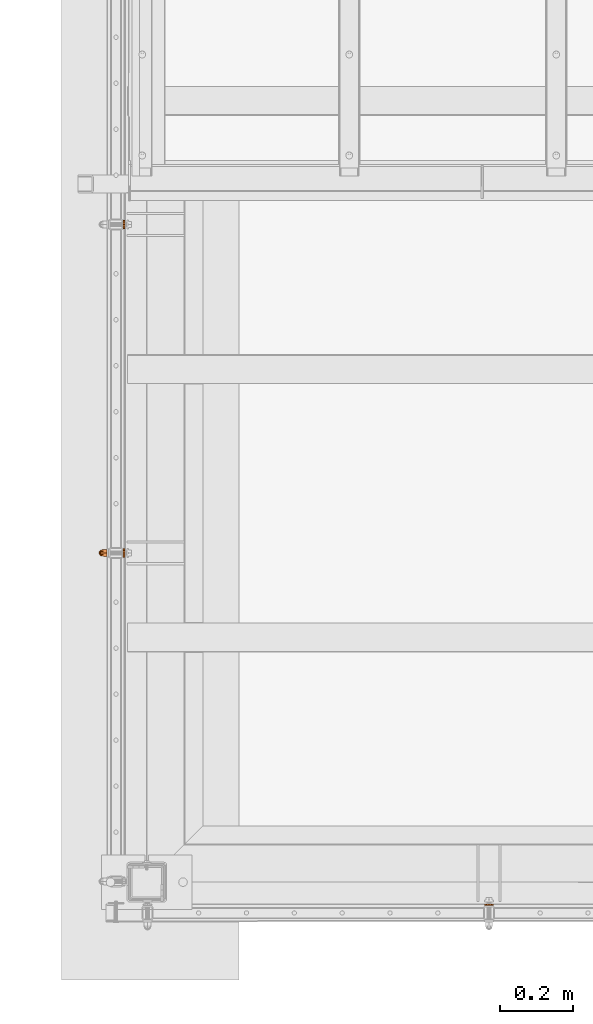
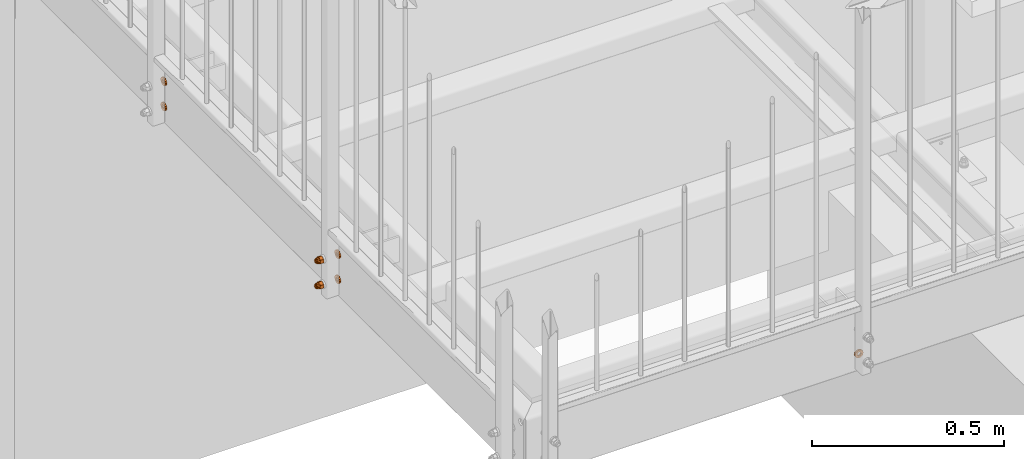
# One storey, part 100 of 116: 7 proxies.
"""IFC2X3 building model written with IfcOpenShell, lengths in millimetres."""

import ifcopenshell
import ifcopenshell.guid

model = None  # the IFC model being written
_history = None  # IfcOwnerHistory: only IFC2X3 demands one
_inside = {}  # id of a spatial element -> (the spatial element, [elements in it])
_under = {}  # id of a project, library or spatial element -> (it, [spatial elements below it])
_declared = {}  # id of a project -> (the project, [libraries it declares])
_typed = {}  # id of a type object -> (the type object, [elements of that type])
_made_of = {}  # id of a material, layer set ... -> (it, [elements and type objects made of it])


def new_model(schema):
    """Start an empty IFC model of exactly this schema.

    Asked for "IFC4X3", IfcOpenShell would pick the latest addendum, in which some entities
    have other attributes; the version numbers below select the first issue.
    IFC2X3 requires an IfcOwnerHistory on every rooted entity: one is made here for all.
    """
    global model, _history
    if schema == "IFC4X3":
        model = ifcopenshell.file(schema_version=(4, 3, 0, 0))
    else:
        model = ifcopenshell.file(schema=schema)
    _inside.clear()
    _under.clear()
    _declared.clear()
    _typed.clear()
    _made_of.clear()
    _history = None
    if model.schema == "IFC2X3":
        org = make("IfcOrganization", Name="unknown")
        user = make(
            "IfcPersonAndOrganization",
            ThePerson=make("IfcPerson", FamilyName="unknown"),
            TheOrganization=org,
        )
        app = make(
            "IfcApplication",
            ApplicationDeveloper=org,
            Version="unknown",
            ApplicationFullName="unknown",
            ApplicationIdentifier="unknown",
        )
        _history = make(
            "IfcOwnerHistory",
            OwningUser=user,
            OwningApplication=app,
            ChangeAction="ADDED",
            CreationDate=0,
        )
    return model


def make(cls, **values):
    """One entity of the class cls with the attributes given. An attribute that is None is left unset."""
    return model.create_entity(
        cls, **{name: value for name, value in values.items() if value is not None}
    )


def entity(cls, *values):
    """Any entity or typed value of the class cls, its attributes in the order of the schema. None: left unset."""
    e = model.create_entity(cls)
    for i, value in enumerate(values):
        if value is not None:
            e[i] = value
    return e


def rooted(cls, **values):
    """An entity with a GlobalId (a new one), such as an element, a storey or a relation."""
    return make(cls, GlobalId=ifcopenshell.guid.new(), OwnerHistory=_history, **values)


def si_unit(unit_type, name, prefix=None):
    """IfcSIUnit, for example si_unit("LENGTHUNIT", "METRE", prefix="MILLI")."""
    return make("IfcSIUnit", UnitType=unit_type, Prefix=prefix, Name=name)


def converted_unit(unit_type, name, factor, base, dimensions=None, offset=None):
    """IfcConversionBasedUnit, such as the inch: factor (a typed value) times the base unit."""
    return make(
        "IfcConversionBasedUnit"
        if offset is None
        else "IfcConversionBasedUnitWithOffset",
        ConversionOffset=offset,
        Dimensions=None
        if dimensions is None
        else entity("IfcDimensionalExponents", *dimensions),
        UnitType=unit_type,
        Name=name,
        ConversionFactor=make(
            "IfcMeasureWithUnit", ValueComponent=factor, UnitComponent=base
        ),
    )


def assignment(units):
    """IfcUnitAssignment: the units of a project."""
    return None if units is None else make("IfcUnitAssignment", Units=units)


def point(xyz):
    """IfcCartesianPoint."""
    return None if xyz is None else make("IfcCartesianPoint", Coordinates=xyz)


def direction(xyz):
    """IfcDirection."""
    return None if xyz is None else make("IfcDirection", DirectionRatios=xyz)


def frame(location, z_axis=None, x_axis=None):
    """IfcAxis2Placement3D, a coordinate frame: its origin and axes. An axis left out is left unset."""
    return make(
        "IfcAxis2Placement3D",
        Location=point(location),
        Axis=direction(z_axis),
        RefDirection=direction(x_axis),
    )


def origin_with_axes():
    """The frame at (0, 0, 0) with the z axis (0, 0, 1) and the x axis (1, 0, 0) written out."""
    return frame((0.0, 0.0, 0.0), z_axis=(0.0, 0.0, 1.0), x_axis=(1.0, 0.0, 0.0))


def place(relative_to, where):
    """IfcLocalPlacement: puts the frame where relative to a parent placement (None: the world)."""
    return make(
        "IfcLocalPlacement", PlacementRelTo=relative_to, RelativePlacement=where
    )


def context(
    kind, dimensions, precision=None, world=None, true_north=None, identifier=None
):
    """IfcGeometricRepresentationContext, for example the 3D "Model" context."""
    return make(
        "IfcGeometricRepresentationContext",
        ContextIdentifier=identifier,
        ContextType=kind,
        CoordinateSpaceDimension=dimensions,
        Precision=precision,
        WorldCoordinateSystem=world,
        TrueNorth=true_north,
    )


def project(units=None, contexts=None):
    """IfcProject with its units and contexts."""
    return rooted(
        "IfcProject",
        Name="project",
        RepresentationContexts=contexts,
        UnitsInContext=assignment(units),
    )


def spatial(cls, under=None, at=None, **own):
    """A site, building, storey or space (cls), placed at a placement, below another one or the project."""
    s = rooted(cls, ObjectPlacement=at, **own)
    if under is not None:
        _under.setdefault(under.id(), (under, []))[1].append(s)
    return s


def faces_of(points, faces, orient=None, outer=None):
    """IfcFace entities. A face is a list of loops; a loop is a list of indices into points, from 0.

    orient and outer hold one flag for each loop. By default every Orientation is true, the
    first loop of a face is its IfcFaceOuterBound and the others are IfcFaceBound.
    """
    made = []
    for i, loops in enumerate(faces):
        bounds = []
        for j, loop in enumerate(loops):
            is_outer = j == 0 if outer is None else outer[i][j]
            bounds.append(
                make(
                    "IfcFaceOuterBound" if is_outer else "IfcFaceBound",
                    Bound=make("IfcPolyLoop", Polygon=[points[k] for k in loop]),
                    Orientation=True if orient is None else orient[i][j],
                )
            )
        made.append(make("IfcFace", Bounds=bounds))
    return made


def faceted_brep(points, faces, orient=None, outer=None, voids=None):
    """IfcFacetedBrep: a solid bounded by flat faces; with voids (closed shells), ...WithVoids."""
    shared = [point(p) for p in points]
    hull = make("IfcClosedShell", CfsFaces=faces_of(shared, faces, orient, outer))
    if voids is None:
        return make("IfcFacetedBrep", Outer=hull)
    return make(
        "IfcFacetedBrepWithVoids",
        Outer=hull,
        Voids=[
            make(cls, CfsFaces=faces_of(shared, fs, o, b)) for cls, fs, o, b in voids
        ],
    )


def shape(context_of_items, identifier, shape_type, items):
    """IfcShapeRepresentation: the items that make up one representation, for example the "Body"."""
    return make(
        "IfcShapeRepresentation",
        ContextOfItems=context_of_items,
        RepresentationIdentifier=identifier,
        RepresentationType=shape_type,
        Items=items,
    )


def material(Name=None, Category=None):
    """IfcMaterial."""
    return make("IfcMaterial", Name=Name, Category=Category)


def made_of(thing, what):
    """Note that an element or type object is made of a material, layer set ...; save() writes the relation."""
    if what is not None:
        _made_of.setdefault(what.id(), (what, []))[1].append(thing)
    return thing


def element(
    cls,
    number,
    at=None,
    inside=None,
    cuts=None,
    type_object=None,
    material=None,
    context=None,
    identifier="Body",
    shape_type=None,
    held_by="IfcProductDefinitionShape",
    body=None,
    shapes=None,
    **own,
):
    """One element of the class cls, such as IfcWall. Its Tag is "e" and its number.

    at: its placement. inside: the storey or other place that contains it. cuts: it is an
    opening in that element (IfcRelVoidsElement). A single representation is given by context,
    identifier, shape_type and body (its items); several are given by shapes. held_by: the class
    of the entity that holds the representations. save() writes the other relations.
    """
    e = rooted(cls, Tag="e%d" % number, ObjectPlacement=at, **own)
    if body is not None:
        shapes = [shape(context, identifier, shape_type, body)]
    if shapes is not None:
        e.Representation = make(held_by, Representations=shapes)
    if inside is not None:
        _inside.setdefault(inside.id(), (inside, []))[1].append(e)
    if cuts is not None:
        rooted(
            "IfcRelVoidsElement", RelatingBuildingElement=cuts, RelatedOpeningElement=e
        )
    if type_object is not None:
        _typed.setdefault(type_object.id(), (type_object, []))[1].append(e)
    return made_of(e, material)


def aggregate(whole, parts):
    """IfcRelAggregates: a whole, such as a stair, and the parts it consists of."""
    return rooted("IfcRelAggregates", RelatingObject=whole, RelatedObjects=parts)


def save(model, path):
    """Write the relations noted so far, then the file.

    IfcRelAggregates (storeys below a building ...), IfcRelContainedInSpatialStructure (elements
    in a storey), IfcRelDefinesByType, IfcRelAssociatesMaterial and IfcRelDeclares: one each for
    every whole, place, type object, material and project.
    """
    for whole, parts in _under.values():
        aggregate(whole, parts)
    for where, things in _inside.values():
        rooted(
            "IfcRelContainedInSpatialStructure",
            RelatedElements=things,
            RelatingStructure=where,
        )
    for kind, things in _typed.values():
        rooted("IfcRelDefinesByType", RelatedObjects=things, RelatingType=kind)
    for what, things in _made_of.values():
        rooted("IfcRelAssociatesMaterial", RelatedObjects=things, RelatingMaterial=what)
    for by, libraries in _declared.values():
        rooted("IfcRelDeclares", RelatingContext=by, RelatedDefinitions=libraries)
    model.write(path)


model = new_model("IFC2X3")

# Units and contexts
model_context = context("Model", 3, precision=1e-09, world=origin_with_axes())
ifc_project = project(units=[si_unit("LENGTHUNIT", "METRE", prefix="MILLI"), si_unit("AREAUNIT", "SQUARE_METRE"), si_unit("VOLUMEUNIT", "CUBIC_METRE"), converted_unit("PLANEANGLEUNIT", "DEGREE", entity("IfcPlaneAngleMeasure", 0.01745329), si_unit("PLANEANGLEUNIT", "RADIAN"), dimensions=[0, 0, 0, 0, 0, 0, 0])], contexts=[model_context])

# Site, building, storey
site_placement = place(None, origin_with_axes())
site = spatial("IfcSite", under=ifc_project, at=site_placement, Name="Site", CompositionType="ELEMENT")
building_placement = place(site_placement, origin_with_axes())
building = spatial("IfcBuilding", under=site, at=building_placement, Name="Struktur 1", CompositionType="ELEMENT")
storey_placement = place(building_placement, origin_with_axes())
storey = spatial("IfcBuildingStorey", under=building, at=storey_placement, Name="Default Storey", CompositionType="ELEMENT", Elevation=0.0)

# Proxies
ifc_material = material(Name="Kein")
proxy_1_placement = place(None, origin_with_axes())
element("IfcBuildingElementProxy", 1, at=proxy_1_placement, inside=storey, material=ifc_material, ObjectType="-", context=model_context, shape_type="Brep", body=[
    faceted_brep([(56270.223817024, 9067.359883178, -151.25), (56274.799134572, 9067.359883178, -155.825317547), (56281.049134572, 9067.359883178, -157.5), (56287.299134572, 9067.359883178, -155.825317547), (56291.874452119, 9067.359883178, -151.25), (56293.549134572, 9067.359883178, -145.0), (56291.874452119, 9067.359883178, -138.75), (56287.299134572, 9067.359883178, -134.174682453), (56281.049134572, 9067.359883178, -132.5), (56274.799134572, 9067.359883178, -134.174682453), (56270.223817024, 9067.359883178, -138.75), (56268.549134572, 9067.359883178, -145.0), (56281.049134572, 9067.359883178, -151.0), (56278.049134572, 9067.359883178, -150.196152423), (56275.852982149, 9067.359883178, -148.0), (56275.049134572, 9067.359883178, -145.0), (56275.852982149, 9067.359883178, -142.0), (56278.049134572, 9067.359883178, -139.803847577), (56281.049134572, 9067.359883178, -139.0), (56284.049134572, 9067.359883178, -139.803847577), (56286.245286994, 9067.359883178, -142.0), (56287.049134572, 9067.359883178, -145.0), (56286.245286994, 9067.359883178, -148.0), (56284.049134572, 9067.359883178, -150.196152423), (56270.223817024, 9072.359883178, -151.25), (56274.799134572, 9072.359883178, -155.825317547), (56268.549134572, 9072.359883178, -145.0), (56270.223817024, 9072.359883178, -138.75), (56274.799134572, 9072.359883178, -134.174682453), (56281.049134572, 9072.359883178, -132.5), (56287.299134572, 9072.359883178, -134.174682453), (56291.874452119, 9072.359883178, -138.75), (56293.549134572, 9072.359883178, -145.0), (56291.874452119, 9072.359883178, -151.25), (56287.299134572, 9072.359883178, -155.825317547), (56281.049134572, 9072.359883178, -157.5), (56275.852982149, 9072.359883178, -142.0), (56275.049134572, 9072.359883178, -145.0), (56275.852982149, 9072.359883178, -148.0), (56278.049134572, 9072.359883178, -150.196152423), (56281.049134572, 9072.359883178, -151.0), (56284.049134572, 9072.359883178, -150.196152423), (56286.245286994, 9072.359883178, -148.0), (56287.049134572, 9072.359883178, -145.0), (56286.245286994, 9072.359883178, -142.0), (56284.049134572, 9072.359883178, -139.803847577), (56281.049134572, 9072.359883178, -139.0), (56278.049134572, 9072.359883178, -139.803847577)], [[[0, 1, 2, 3, 4, 5, 6, 7, 8, 9, 10, 11], [12, 13, 14, 15, 16, 17, 18, 19, 20, 21, 22, 23]], [[0, 24, 25, 1]], [[24, 26, 27, 28, 29, 30, 31, 32, 33, 34, 35, 25], [36, 37, 38, 39, 40, 41, 42, 43, 44, 45, 46, 47]], [[38, 14, 13, 39]], [[24, 0, 11, 26]], [[14, 38, 37, 15]], [[39, 13, 12, 40]], [[1, 25, 35, 2]], [[26, 11, 10, 27]], [[15, 37, 36, 16]], [[40, 12, 23, 41]], [[2, 35, 34, 3]], [[27, 10, 9, 28]], [[16, 36, 47, 17]], [[22, 42, 41, 23]], [[3, 34, 33, 4]], [[42, 22, 21, 43]], [[28, 9, 8, 29]], [[17, 47, 46, 18]], [[20, 44, 43, 21]], [[4, 33, 32, 5]], [[45, 19, 18, 46]], [[44, 20, 19, 45]], [[29, 8, 7, 30]], [[5, 32, 31, 6]], [[30, 7, 6, 31]]]),
])
proxy_2_placement = place(None, origin_with_axes())
element("IfcBuildingElementProxy", 2, at=proxy_2_placement, inside=storey, material=ifc_material, ObjectType="-", context=model_context, shape_type="Brep", body=[
    faceted_brep([(55272.049134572, 10051.184200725, -151.25), (55272.049134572, 10046.608883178, -155.825317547), (55272.049134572, 10040.358883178, -157.5), (55272.049134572, 10034.108883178, -155.825317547), (55272.049134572, 10029.533565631, -151.25), (55272.049134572, 10027.858883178, -145.0), (55272.049134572, 10029.533565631, -138.75), (55272.049134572, 10034.108883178, -134.174682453), (55272.049134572, 10040.358883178, -132.5), (55272.049134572, 10046.608883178, -134.174682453), (55272.049134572, 10051.184200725, -138.75), (55272.049134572, 10052.858883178, -145.0), (55272.049134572, 10040.358883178, -151.0), (55272.049134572, 10043.358883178, -150.196152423), (55272.049134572, 10045.555035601, -148.0), (55272.049134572, 10046.358883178, -145.0), (55272.049134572, 10045.555035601, -142.0), (55272.049134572, 10043.358883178, -139.803847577), (55272.049134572, 10040.358883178, -139.0), (55272.049134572, 10037.358883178, -139.803847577), (55272.049134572, 10035.162730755, -142.0), (55272.049134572, 10034.358883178, -145.0), (55272.049134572, 10035.162730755, -148.0), (55272.049134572, 10037.358883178, -150.196152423), (55277.049134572, 10051.184200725, -151.25), (55277.049134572, 10046.608883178, -155.825317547), (55277.049134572, 10052.858883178, -145.0), (55277.049134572, 10051.184200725, -138.75), (55277.049134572, 10046.608883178, -134.174682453), (55277.049134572, 10040.358883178, -132.5), (55277.049134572, 10034.108883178, -134.174682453), (55277.049134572, 10029.533565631, -138.75), (55277.049134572, 10027.858883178, -145.0), (55277.049134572, 10029.533565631, -151.25), (55277.049134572, 10034.108883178, -155.825317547), (55277.049134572, 10040.358883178, -157.5), (55277.049134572, 10045.555035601, -142.0), (55277.049134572, 10046.358883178, -145.0), (55277.049134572, 10045.555035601, -148.0), (55277.049134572, 10043.358883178, -150.196152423), (55277.049134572, 10040.358883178, -151.0), (55277.049134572, 10037.358883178, -150.196152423), (55277.049134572, 10035.162730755, -148.0), (55277.049134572, 10034.358883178, -145.0), (55277.049134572, 10035.162730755, -142.0), (55277.049134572, 10037.358883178, -139.803847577), (55277.049134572, 10040.358883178, -139.0), (55277.049134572, 10043.358883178, -139.803847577)], [[[0, 1, 2, 3, 4, 5, 6, 7, 8, 9, 10, 11], [12, 13, 14, 15, 16, 17, 18, 19, 20, 21, 22, 23]], [[0, 24, 25, 1]], [[24, 26, 27, 28, 29, 30, 31, 32, 33, 34, 35, 25], [36, 37, 38, 39, 40, 41, 42, 43, 44, 45, 46, 47]], [[38, 14, 13, 39]], [[24, 0, 11, 26]], [[14, 38, 37, 15]], [[39, 13, 12, 40]], [[1, 25, 35, 2]], [[26, 11, 10, 27]], [[15, 37, 36, 16]], [[40, 12, 23, 41]], [[2, 35, 34, 3]], [[27, 10, 9, 28]], [[16, 36, 47, 17]], [[22, 42, 41, 23]], [[3, 34, 33, 4]], [[42, 22, 21, 43]], [[28, 9, 8, 29]], [[17, 47, 46, 18]], [[20, 44, 43, 21]], [[4, 33, 32, 5]], [[45, 19, 18, 46]], [[44, 20, 19, 45]], [[29, 8, 7, 30]], [[5, 32, 31, 6]], [[30, 7, 6, 31]]]),
])
proxy_3_placement = place(None, origin_with_axes())
element("IfcBuildingElementProxy", 3, at=proxy_3_placement, inside=storey, material=ifc_material, ObjectType="-", context=model_context, shape_type="Brep", body=[
    faceted_brep([(55272.049134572, 10051.184200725, -71.25), (55272.049134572, 10046.608883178, -75.825317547), (55272.049134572, 10040.358883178, -77.5), (55272.049134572, 10034.108883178, -75.825317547), (55272.049134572, 10029.533565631, -71.25), (55272.049134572, 10027.858883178, -65.0), (55272.049134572, 10029.533565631, -58.75), (55272.049134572, 10034.108883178, -54.174682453), (55272.049134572, 10040.358883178, -52.5), (55272.049134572, 10046.608883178, -54.174682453), (55272.049134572, 10051.184200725, -58.75), (55272.049134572, 10052.858883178, -65.0), (55272.049134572, 10040.358883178, -71.0), (55272.049134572, 10043.358883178, -70.196152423), (55272.049134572, 10045.555035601, -68.0), (55272.049134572, 10046.358883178, -65.0), (55272.049134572, 10045.555035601, -62.0), (55272.049134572, 10043.358883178, -59.803847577), (55272.049134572, 10040.358883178, -59.0), (55272.049134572, 10037.358883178, -59.803847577), (55272.049134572, 10035.162730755, -62.0), (55272.049134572, 10034.358883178, -65.0), (55272.049134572, 10035.162730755, -68.0), (55272.049134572, 10037.358883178, -70.196152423), (55277.049134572, 10051.184200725, -71.25), (55277.049134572, 10046.608883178, -75.825317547), (55277.049134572, 10052.858883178, -65.0), (55277.049134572, 10051.184200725, -58.75), (55277.049134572, 10046.608883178, -54.174682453), (55277.049134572, 10040.358883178, -52.5), (55277.049134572, 10034.108883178, -54.174682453), (55277.049134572, 10029.533565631, -58.75), (55277.049134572, 10027.858883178, -65.0), (55277.049134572, 10029.533565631, -71.25), (55277.049134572, 10034.108883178, -75.825317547), (55277.049134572, 10040.358883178, -77.5), (55277.049134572, 10045.555035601, -62.0), (55277.049134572, 10046.358883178, -65.0), (55277.049134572, 10045.555035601, -68.0), (55277.049134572, 10043.358883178, -70.196152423), (55277.049134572, 10040.358883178, -71.0), (55277.049134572, 10037.358883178, -70.196152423), (55277.049134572, 10035.162730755, -68.0), (55277.049134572, 10034.358883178, -65.0), (55277.049134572, 10035.162730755, -62.0), (55277.049134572, 10037.358883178, -59.803847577), (55277.049134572, 10040.358883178, -59.0), (55277.049134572, 10043.358883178, -59.803847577)], [[[0, 1, 2, 3, 4, 5, 6, 7, 8, 9, 10, 11], [12, 13, 14, 15, 16, 17, 18, 19, 20, 21, 22, 23]], [[0, 24, 25, 1]], [[24, 26, 27, 28, 29, 30, 31, 32, 33, 34, 35, 25], [36, 37, 38, 39, 40, 41, 42, 43, 44, 45, 46, 47]], [[38, 14, 13, 39]], [[24, 0, 11, 26]], [[14, 38, 37, 15]], [[39, 13, 12, 40]], [[1, 25, 35, 2]], [[26, 11, 10, 27]], [[15, 37, 36, 16]], [[40, 12, 23, 41]], [[2, 35, 34, 3]], [[27, 10, 9, 28]], [[16, 36, 47, 17]], [[22, 42, 41, 23]], [[3, 34, 33, 4]], [[42, 22, 21, 43]], [[28, 9, 8, 29]], [[17, 47, 46, 18]], [[20, 44, 43, 21]], [[4, 33, 32, 5]], [[45, 19, 18, 46]], [[44, 20, 19, 45]], [[29, 8, 7, 30]], [[5, 32, 31, 6]], [[30, 7, 6, 31]]]),
])
proxy_4_placement = place(None, origin_with_axes())
element("IfcBuildingElementProxy", 4, at=proxy_4_placement, inside=storey, material=ifc_material, ObjectType="-", context=model_context, shape_type="Brep", body=[
    faceted_brep([(55227.049134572, 10046.358883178, -65.0), (55217.049134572, 10046.358883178, -65.0), (55217.049134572, 10045.555035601, -68.0), (55227.049134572, 10045.555035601, -68.0), (55217.049134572, 10043.358883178, -70.196152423), (55227.049134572, 10043.358883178, -70.196152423), (55227.049134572, 10045.555035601, -62.0), (55217.049134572, 10045.555035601, -62.0), (55227.049134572, 10049.838752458, -59.526794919), (55227.049134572, 10040.358883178, -54.053589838), (55227.049134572, 10030.879013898, -59.526794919), (55227.049134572, 10030.879013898, -70.473205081), (55227.049134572, 10040.358883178, -75.946410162), (55227.049134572, 10049.838752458, -70.473205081), (55227.049134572, 10043.358883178, -59.803847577), (55227.049134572, 10040.358883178, -71.0), (55227.049134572, 10037.358883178, -70.196152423), (55227.049134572, 10035.162730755, -68.0), (55227.049134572, 10034.358883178, -65.0), (55227.049134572, 10035.162730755, -62.0), (55227.049134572, 10037.358883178, -59.803847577), (55227.049134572, 10040.358883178, -59.0), (55217.049134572, 10040.358883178, -54.053589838), (55217.049134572, 10049.838752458, -59.526794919), (55217.049134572, 10049.838752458, -70.473205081), (55217.049134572, 10040.358883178, -75.946410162), (55217.049134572, 10030.879013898, -70.473205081), (55217.049134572, 10030.879013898, -59.526794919), (55217.049134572, 10043.358883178, -59.803847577), (55217.049134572, 10040.358883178, -59.0), (55217.049134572, 10037.358883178, -59.803847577), (55217.049134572, 10035.162730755, -62.0), (55217.049134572, 10034.358883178, -65.0), (55217.049134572, 10035.162730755, -68.0), (55217.049134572, 10037.358883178, -70.196152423), (55217.049134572, 10040.358883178, -71.0)], [[[0, 1, 2, 3]], [[3, 2, 4, 5]], [[1, 0, 6, 7]], [[8, 9, 10, 11, 12, 13], [14, 6, 0, 3, 5, 15, 16, 17, 18, 19, 20, 21]], [[22, 23, 24, 25, 26, 27], [1, 7, 28, 29, 30, 31, 32, 33, 34, 35, 4, 2]], [[7, 6, 14, 28]], [[24, 23, 8, 13]], [[5, 4, 35, 15]], [[13, 12, 25, 24]], [[28, 14, 21, 29]], [[23, 22, 9, 8]], [[15, 35, 34, 16]], [[12, 11, 26, 25]], [[29, 21, 20, 30]], [[22, 27, 10, 9]], [[16, 34, 33, 17]], [[27, 26, 11, 10]], [[30, 20, 19, 31]], [[17, 33, 32, 18]], [[31, 19, 18, 32]]]),
    faceted_brep([(55217.049134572, 10040.358883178, -56.0), (55214.049134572, 10040.358883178, -56.0), (55214.049134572, 10035.858883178, -57.205771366), (55217.049134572, 10035.858883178, -57.205771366), (55217.049134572, 10044.858883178, -57.205771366), (55214.049134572, 10044.858883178, -57.205771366), (55214.049134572, 10048.153111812, -69.5), (55214.049134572, 10044.858883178, -72.794228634), (55214.049134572, 10040.358883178, -74.0), (55214.049134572, 10035.858883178, -72.794228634), (55214.049134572, 10032.564654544, -69.5), (55214.049134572, 10031.358883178, -65.0), (55214.049134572, 10032.564654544, -60.5), (55214.049134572, 10048.153111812, -60.5), (55214.049134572, 10049.358883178, -65.0), (55217.049134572, 10032.564654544, -69.5), (55217.049134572, 10035.858883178, -72.794228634), (55217.049134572, 10040.358883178, -74.0), (55217.049134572, 10044.858883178, -72.794228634), (55217.049134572, 10048.153111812, -69.5), (55217.049134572, 10049.358883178, -65.0), (55217.049134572, 10048.153111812, -60.5), (55217.049134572, 10032.564654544, -60.5), (55217.049134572, 10031.358883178, -65.0)], [[[0, 1, 2, 3]], [[1, 0, 4, 5]], [[6, 7, 8, 9, 10, 11, 12, 2, 1, 5, 13, 14]], [[15, 16, 17, 18, 19, 20, 21, 4, 0, 3, 22, 23]], [[3, 2, 12, 22]], [[5, 4, 21, 13]], [[22, 12, 11, 23]], [[13, 21, 20, 14]], [[7, 18, 17, 8]], [[19, 6, 14, 20]], [[18, 7, 6, 19]], [[23, 11, 10, 15]], [[8, 17, 16, 9]], [[15, 10, 9, 16]]]),
    faceted_brep([(55214.049134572, 10048.153111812, -60.5), (55209.549134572, 10047.108883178, -61.102885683), (55209.549134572, 10044.255997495, -58.25), (55214.049134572, 10044.858883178, -57.205771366), (55214.049134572, 10032.564654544, -69.5), (55214.049134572, 10035.858883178, -72.794228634), (55214.049134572, 10040.358883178, -74.0), (55214.049134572, 10044.858883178, -72.794228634), (55214.049134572, 10048.153111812, -69.5), (55214.049134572, 10049.358883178, -65.0), (55214.049134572, 10040.358883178, -56.0), (55214.049134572, 10035.858883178, -57.205771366), (55214.049134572, 10032.564654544, -60.5), (55214.049134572, 10031.358883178, -65.0), (55209.549134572, 10040.358883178, -57.205771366), (55209.549134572, 10048.153111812, -65.0), (55206.254905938, 10044.858883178, -65.0), (55206.254905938, 10044.255997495, -62.75), (55209.549134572, 10036.461768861, -58.25), (55206.254905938, 10042.608883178, -61.102885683), (55209.549134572, 10047.108883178, -68.897114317), (55206.254905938, 10044.255997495, -67.25), (55206.254905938, 10040.358883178, -60.5), (55205.049134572, 10040.358883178, -65.0), (55209.549134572, 10044.255997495, -71.75), (55206.254905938, 10042.608883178, -68.897114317), (55209.549134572, 10040.358883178, -72.794228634), (55209.549134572, 10033.608883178, -61.102885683), (55206.254905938, 10038.108883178, -61.102885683), (55206.254905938, 10040.358883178, -69.5), (55209.549134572, 10036.461768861, -71.75), (55206.254905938, 10038.108883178, -68.897114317), (55209.549134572, 10032.564654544, -65.0), (55206.254905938, 10036.461768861, -62.75), (55209.549134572, 10033.608883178, -68.897114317), (55206.254905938, 10036.461768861, -67.25), (55206.254905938, 10035.858883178, -65.0)], [[[0, 1, 2, 3]], [[4, 5, 6, 7, 8, 9, 0, 3, 10, 11, 12, 13]], [[3, 2, 14, 10]], [[15, 16, 17, 1]], [[1, 0, 9, 15]], [[10, 14, 18, 11]], [[1, 17, 19, 2]], [[16, 15, 20, 21]], [[2, 19, 22, 14]], [[23, 17, 16]], [[24, 25, 21, 20]], [[23, 16, 21]], [[24, 7, 6, 26]], [[20, 8, 7, 24]], [[15, 9, 8, 20]], [[11, 18, 27, 12]], [[14, 22, 28, 18]], [[23, 19, 17]], [[26, 29, 25, 24]], [[23, 21, 25]], [[23, 22, 19]], [[26, 6, 5, 30]], [[29, 26, 30, 31]], [[23, 25, 29]], [[12, 27, 32, 13]], [[18, 28, 33, 27]], [[23, 28, 22]], [[23, 29, 31]], [[23, 33, 28]], [[30, 5, 4, 34]], [[31, 30, 34, 35]], [[23, 31, 35]], [[13, 32, 34, 4]], [[27, 33, 36, 32]], [[23, 36, 33]], [[23, 35, 36]], [[35, 34, 32, 36]]]),
])
proxy_5_placement = place(None, origin_with_axes())
element("IfcBuildingElementProxy", 5, at=proxy_5_placement, inside=storey, material=ifc_material, ObjectType="-", context=model_context, shape_type="Brep", body=[
    faceted_brep([(55227.049134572, 10046.358883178, -145.0), (55217.049134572, 10046.358883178, -145.0), (55217.049134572, 10045.555035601, -148.0), (55227.049134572, 10045.555035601, -148.0), (55217.049134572, 10043.358883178, -150.196152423), (55227.049134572, 10043.358883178, -150.196152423), (55227.049134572, 10045.555035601, -142.0), (55217.049134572, 10045.555035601, -142.0), (55227.049134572, 10049.838752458, -139.526794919), (55227.049134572, 10040.358883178, -134.053589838), (55227.049134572, 10030.879013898, -139.526794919), (55227.049134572, 10030.879013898, -150.473205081), (55227.049134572, 10040.358883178, -155.946410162), (55227.049134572, 10049.838752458, -150.473205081), (55227.049134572, 10043.358883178, -139.803847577), (55227.049134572, 10040.358883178, -151.0), (55227.049134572, 10037.358883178, -150.196152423), (55227.049134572, 10035.162730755, -148.0), (55227.049134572, 10034.358883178, -145.0), (55227.049134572, 10035.162730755, -142.0), (55227.049134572, 10037.358883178, -139.803847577), (55227.049134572, 10040.358883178, -139.0), (55217.049134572, 10040.358883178, -134.053589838), (55217.049134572, 10049.838752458, -139.526794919), (55217.049134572, 10049.838752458, -150.473205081), (55217.049134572, 10040.358883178, -155.946410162), (55217.049134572, 10030.879013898, -150.473205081), (55217.049134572, 10030.879013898, -139.526794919), (55217.049134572, 10043.358883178, -139.803847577), (55217.049134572, 10040.358883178, -139.0), (55217.049134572, 10037.358883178, -139.803847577), (55217.049134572, 10035.162730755, -142.0), (55217.049134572, 10034.358883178, -145.0), (55217.049134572, 10035.162730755, -148.0), (55217.049134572, 10037.358883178, -150.196152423), (55217.049134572, 10040.358883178, -151.0)], [[[0, 1, 2, 3]], [[3, 2, 4, 5]], [[1, 0, 6, 7]], [[8, 9, 10, 11, 12, 13], [14, 6, 0, 3, 5, 15, 16, 17, 18, 19, 20, 21]], [[22, 23, 24, 25, 26, 27], [1, 7, 28, 29, 30, 31, 32, 33, 34, 35, 4, 2]], [[7, 6, 14, 28]], [[24, 23, 8, 13]], [[5, 4, 35, 15]], [[13, 12, 25, 24]], [[28, 14, 21, 29]], [[23, 22, 9, 8]], [[15, 35, 34, 16]], [[12, 11, 26, 25]], [[29, 21, 20, 30]], [[22, 27, 10, 9]], [[16, 34, 33, 17]], [[27, 26, 11, 10]], [[30, 20, 19, 31]], [[17, 33, 32, 18]], [[31, 19, 18, 32]]]),
    faceted_brep([(55217.049134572, 10040.358883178, -136.0), (55214.049134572, 10040.358883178, -136.0), (55214.049134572, 10035.858883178, -137.205771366), (55217.049134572, 10035.858883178, -137.205771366), (55217.049134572, 10044.858883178, -137.205771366), (55214.049134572, 10044.858883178, -137.205771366), (55214.049134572, 10048.153111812, -149.5), (55214.049134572, 10044.858883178, -152.794228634), (55214.049134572, 10040.358883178, -154.0), (55214.049134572, 10035.858883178, -152.794228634), (55214.049134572, 10032.564654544, -149.5), (55214.049134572, 10031.358883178, -145.0), (55214.049134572, 10032.564654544, -140.5), (55214.049134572, 10048.153111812, -140.5), (55214.049134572, 10049.358883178, -145.0), (55217.049134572, 10032.564654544, -149.5), (55217.049134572, 10035.858883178, -152.794228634), (55217.049134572, 10040.358883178, -154.0), (55217.049134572, 10044.858883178, -152.794228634), (55217.049134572, 10048.153111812, -149.5), (55217.049134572, 10049.358883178, -145.0), (55217.049134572, 10048.153111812, -140.5), (55217.049134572, 10032.564654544, -140.5), (55217.049134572, 10031.358883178, -145.0)], [[[0, 1, 2, 3]], [[1, 0, 4, 5]], [[6, 7, 8, 9, 10, 11, 12, 2, 1, 5, 13, 14]], [[15, 16, 17, 18, 19, 20, 21, 4, 0, 3, 22, 23]], [[3, 2, 12, 22]], [[5, 4, 21, 13]], [[22, 12, 11, 23]], [[13, 21, 20, 14]], [[7, 18, 17, 8]], [[19, 6, 14, 20]], [[18, 7, 6, 19]], [[23, 11, 10, 15]], [[8, 17, 16, 9]], [[15, 10, 9, 16]]]),
    faceted_brep([(55214.049134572, 10048.153111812, -140.5), (55209.549134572, 10047.108883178, -141.102885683), (55209.549134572, 10044.255997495, -138.25), (55214.049134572, 10044.858883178, -137.205771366), (55214.049134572, 10032.564654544, -149.5), (55214.049134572, 10035.858883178, -152.794228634), (55214.049134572, 10040.358883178, -154.0), (55214.049134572, 10044.858883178, -152.794228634), (55214.049134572, 10048.153111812, -149.5), (55214.049134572, 10049.358883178, -145.0), (55214.049134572, 10040.358883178, -136.0), (55214.049134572, 10035.858883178, -137.205771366), (55214.049134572, 10032.564654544, -140.5), (55214.049134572, 10031.358883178, -145.0), (55209.549134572, 10040.358883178, -137.205771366), (55209.549134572, 10048.153111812, -145.0), (55206.254905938, 10044.858883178, -145.0), (55206.254905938, 10044.255997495, -142.75), (55209.549134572, 10036.461768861, -138.25), (55206.254905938, 10042.608883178, -141.102885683), (55209.549134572, 10047.108883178, -148.897114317), (55206.254905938, 10044.255997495, -147.25), (55206.254905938, 10040.358883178, -140.5), (55205.049134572, 10040.358883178, -145.0), (55209.549134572, 10044.255997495, -151.75), (55206.254905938, 10042.608883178, -148.897114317), (55209.549134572, 10040.358883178, -152.794228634), (55209.549134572, 10033.608883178, -141.102885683), (55206.254905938, 10038.108883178, -141.102885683), (55206.254905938, 10040.358883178, -149.5), (55209.549134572, 10036.461768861, -151.75), (55206.254905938, 10038.108883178, -148.897114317), (55209.549134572, 10032.564654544, -145.0), (55206.254905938, 10036.461768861, -142.75), (55209.549134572, 10033.608883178, -148.897114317), (55206.254905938, 10036.461768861, -147.25), (55206.254905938, 10035.858883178, -145.0)], [[[0, 1, 2, 3]], [[4, 5, 6, 7, 8, 9, 0, 3, 10, 11, 12, 13]], [[3, 2, 14, 10]], [[15, 16, 17, 1]], [[1, 0, 9, 15]], [[10, 14, 18, 11]], [[1, 17, 19, 2]], [[16, 15, 20, 21]], [[2, 19, 22, 14]], [[23, 17, 16]], [[24, 25, 21, 20]], [[23, 16, 21]], [[24, 7, 6, 26]], [[20, 8, 7, 24]], [[15, 9, 8, 20]], [[11, 18, 27, 12]], [[14, 22, 28, 18]], [[23, 19, 17]], [[26, 29, 25, 24]], [[23, 21, 25]], [[23, 22, 19]], [[26, 6, 5, 30]], [[29, 26, 30, 31]], [[23, 25, 29]], [[12, 27, 32, 13]], [[18, 28, 33, 27]], [[23, 28, 22]], [[23, 29, 31]], [[23, 33, 28]], [[30, 5, 4, 34]], [[31, 30, 34, 35]], [[23, 31, 35]], [[13, 32, 34, 4]], [[27, 33, 36, 32]], [[23, 36, 33]], [[23, 35, 36]], [[35, 34, 32, 36]]]),
])
proxy_6_placement = place(None, origin_with_axes())
element("IfcBuildingElementProxy", 6, at=proxy_6_placement, inside=storey, material=ifc_material, ObjectType="-", context=model_context, shape_type="Brep", body=[
    faceted_brep([(55272.049134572, 10957.184200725, -151.25), (55272.049134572, 10952.608883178, -155.825317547), (55272.049134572, 10946.358883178, -157.5), (55272.049134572, 10940.108883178, -155.825317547), (55272.049134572, 10935.533565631, -151.25), (55272.049134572, 10933.858883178, -145.0), (55272.049134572, 10935.533565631, -138.75), (55272.049134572, 10940.108883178, -134.174682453), (55272.049134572, 10946.358883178, -132.5), (55272.049134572, 10952.608883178, -134.174682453), (55272.049134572, 10957.184200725, -138.75), (55272.049134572, 10958.858883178, -145.0), (55272.049134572, 10946.358883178, -151.0), (55272.049134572, 10949.358883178, -150.196152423), (55272.049134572, 10951.555035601, -148.0), (55272.049134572, 10952.358883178, -145.0), (55272.049134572, 10951.555035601, -142.0), (55272.049134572, 10949.358883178, -139.803847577), (55272.049134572, 10946.358883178, -139.0), (55272.049134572, 10943.358883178, -139.803847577), (55272.049134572, 10941.162730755, -142.0), (55272.049134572, 10940.358883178, -145.0), (55272.049134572, 10941.162730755, -148.0), (55272.049134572, 10943.358883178, -150.196152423), (55277.049134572, 10957.184200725, -151.25), (55277.049134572, 10952.608883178, -155.825317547), (55277.049134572, 10958.858883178, -145.0), (55277.049134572, 10957.184200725, -138.75), (55277.049134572, 10952.608883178, -134.174682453), (55277.049134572, 10946.358883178, -132.5), (55277.049134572, 10940.108883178, -134.174682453), (55277.049134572, 10935.533565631, -138.75), (55277.049134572, 10933.858883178, -145.0), (55277.049134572, 10935.533565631, -151.25), (55277.049134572, 10940.108883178, -155.825317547), (55277.049134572, 10946.358883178, -157.5), (55277.049134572, 10951.555035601, -142.0), (55277.049134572, 10952.358883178, -145.0), (55277.049134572, 10951.555035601, -148.0), (55277.049134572, 10949.358883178, -150.196152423), (55277.049134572, 10946.358883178, -151.0), (55277.049134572, 10943.358883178, -150.196152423), (55277.049134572, 10941.162730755, -148.0), (55277.049134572, 10940.358883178, -145.0), (55277.049134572, 10941.162730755, -142.0), (55277.049134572, 10943.358883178, -139.803847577), (55277.049134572, 10946.358883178, -139.0), (55277.049134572, 10949.358883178, -139.803847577)], [[[0, 1, 2, 3, 4, 5, 6, 7, 8, 9, 10, 11], [12, 13, 14, 15, 16, 17, 18, 19, 20, 21, 22, 23]], [[0, 24, 25, 1]], [[24, 26, 27, 28, 29, 30, 31, 32, 33, 34, 35, 25], [36, 37, 38, 39, 40, 41, 42, 43, 44, 45, 46, 47]], [[38, 14, 13, 39]], [[24, 0, 11, 26]], [[14, 38, 37, 15]], [[39, 13, 12, 40]], [[1, 25, 35, 2]], [[26, 11, 10, 27]], [[15, 37, 36, 16]], [[40, 12, 23, 41]], [[2, 35, 34, 3]], [[27, 10, 9, 28]], [[16, 36, 47, 17]], [[22, 42, 41, 23]], [[3, 34, 33, 4]], [[42, 22, 21, 43]], [[28, 9, 8, 29]], [[17, 47, 46, 18]], [[20, 44, 43, 21]], [[4, 33, 32, 5]], [[45, 19, 18, 46]], [[44, 20, 19, 45]], [[29, 8, 7, 30]], [[5, 32, 31, 6]], [[30, 7, 6, 31]]]),
])
proxy_7_placement = place(None, origin_with_axes())
element("IfcBuildingElementProxy", 7, at=proxy_7_placement, inside=storey, material=ifc_material, ObjectType="-", context=model_context, shape_type="Brep", body=[
    faceted_brep([(55272.049134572, 10957.184200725, -71.25), (55272.049134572, 10952.608883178, -75.825317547), (55272.049134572, 10946.358883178, -77.5), (55272.049134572, 10940.108883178, -75.825317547), (55272.049134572, 10935.533565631, -71.25), (55272.049134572, 10933.858883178, -65.0), (55272.049134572, 10935.533565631, -58.75), (55272.049134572, 10940.108883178, -54.174682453), (55272.049134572, 10946.358883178, -52.5), (55272.049134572, 10952.608883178, -54.174682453), (55272.049134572, 10957.184200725, -58.75), (55272.049134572, 10958.858883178, -65.0), (55272.049134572, 10946.358883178, -71.0), (55272.049134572, 10949.358883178, -70.196152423), (55272.049134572, 10951.555035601, -68.0), (55272.049134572, 10952.358883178, -65.0), (55272.049134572, 10951.555035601, -62.0), (55272.049134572, 10949.358883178, -59.803847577), (55272.049134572, 10946.358883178, -59.0), (55272.049134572, 10943.358883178, -59.803847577), (55272.049134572, 10941.162730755, -62.0), (55272.049134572, 10940.358883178, -65.0), (55272.049134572, 10941.162730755, -68.0), (55272.049134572, 10943.358883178, -70.196152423), (55277.049134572, 10957.184200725, -71.25), (55277.049134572, 10952.608883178, -75.825317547), (55277.049134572, 10958.858883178, -65.0), (55277.049134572, 10957.184200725, -58.75), (55277.049134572, 10952.608883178, -54.174682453), (55277.049134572, 10946.358883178, -52.5), (55277.049134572, 10940.108883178, -54.174682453), (55277.049134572, 10935.533565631, -58.75), (55277.049134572, 10933.858883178, -65.0), (55277.049134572, 10935.533565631, -71.25), (55277.049134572, 10940.108883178, -75.825317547), (55277.049134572, 10946.358883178, -77.5), (55277.049134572, 10951.555035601, -62.0), (55277.049134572, 10952.358883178, -65.0), (55277.049134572, 10951.555035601, -68.0), (55277.049134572, 10949.358883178, -70.196152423), (55277.049134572, 10946.358883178, -71.0), (55277.049134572, 10943.358883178, -70.196152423), (55277.049134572, 10941.162730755, -68.0), (55277.049134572, 10940.358883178, -65.0), (55277.049134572, 10941.162730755, -62.0), (55277.049134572, 10943.358883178, -59.803847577), (55277.049134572, 10946.358883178, -59.0), (55277.049134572, 10949.358883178, -59.803847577)], [[[0, 1, 2, 3, 4, 5, 6, 7, 8, 9, 10, 11], [12, 13, 14, 15, 16, 17, 18, 19, 20, 21, 22, 23]], [[0, 24, 25, 1]], [[24, 26, 27, 28, 29, 30, 31, 32, 33, 34, 35, 25], [36, 37, 38, 39, 40, 41, 42, 43, 44, 45, 46, 47]], [[38, 14, 13, 39]], [[24, 0, 11, 26]], [[14, 38, 37, 15]], [[39, 13, 12, 40]], [[1, 25, 35, 2]], [[26, 11, 10, 27]], [[15, 37, 36, 16]], [[40, 12, 23, 41]], [[2, 35, 34, 3]], [[27, 10, 9, 28]], [[16, 36, 47, 17]], [[22, 42, 41, 23]], [[3, 34, 33, 4]], [[42, 22, 21, 43]], [[28, 9, 8, 29]], [[17, 47, 46, 18]], [[20, 44, 43, 21]], [[4, 33, 32, 5]], [[45, 19, 18, 46]], [[44, 20, 19, 45]], [[29, 8, 7, 30]], [[5, 32, 31, 6]], [[30, 7, 6, 31]]]),
])

save(model, "model.ifc")
